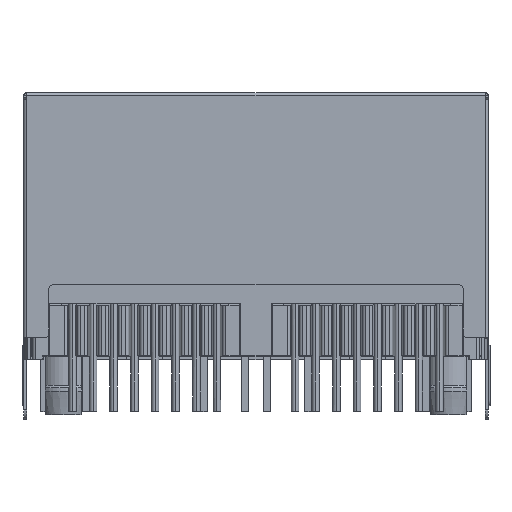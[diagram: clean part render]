
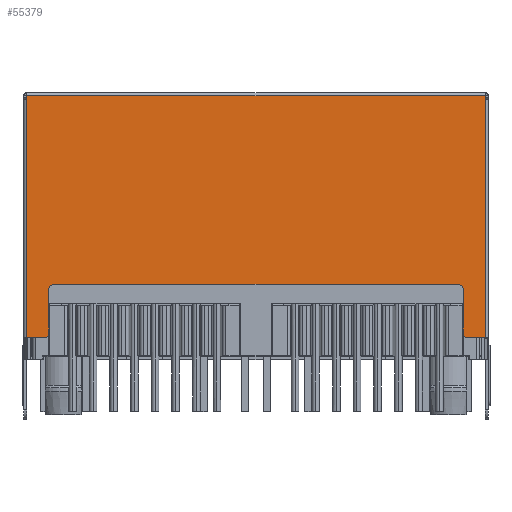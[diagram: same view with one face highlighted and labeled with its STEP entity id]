
A CAD part, top view. The second image highlights one B-rep face of the part: STEP entity #55379.
In plain terms, the highlighted planar face has unit normal (0, 0, -1).
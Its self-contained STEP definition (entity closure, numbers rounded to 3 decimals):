
#49929=DIRECTION('',(1.,0.,0.));
#49930=VECTOR('',#49929,1.05);
#49931=CARTESIAN_POINT('',(13.05,-6.9,7.88));
#49932=LINE('',#49931,#49930);
#49966=DIRECTION('',(0.,1.,0.));
#49967=VECTOR('',#49966,14.7);
#49968=CARTESIAN_POINT('',(14.1,-6.9,7.88));
#49969=LINE('',#49968,#49967);
#49974=CARTESIAN_POINT('',(13.05,-6.6,7.88));
#49975=DIRECTION('',(0.,0.,1.));
#49976=DIRECTION('',(-1.,0.,0.));
#49977=AXIS2_PLACEMENT_3D('',#49974,#49975,#49976);
#49979=DIRECTION('',(0.,1.,0.));
#49980=VECTOR('',#49979,0.2);
#49981=CARTESIAN_POINT('',(14.1,7.8,7.88));
#49982=LINE('',#49981,#49980);
#49983=DIRECTION('',(0.,-1.,0.));
#49984=VECTOR('',#49983,0.2);
#49985=CARTESIAN_POINT('',(-14.1,8.,7.88));
#49986=LINE('',#49985,#49984);
#49987=DIRECTION('',(1.,0.,0.));
#49988=VECTOR('',#49987,1.05);
#49989=CARTESIAN_POINT('',(-14.1,-6.9,7.88));
#49990=LINE('',#49989,#49988);
#49991=CARTESIAN_POINT('',(-13.05,-6.6,7.88));
#49992=DIRECTION('',(0.,0.,1.));
#49993=DIRECTION('',(0.,-1.,0.));
#49994=AXIS2_PLACEMENT_3D('',#49991,#49992,#49993);
#49996=DIRECTION('',(0.,1.,0.));
#49997=VECTOR('',#49996,2.7);
#49998=CARTESIAN_POINT('',(-12.75,-6.6,7.88));
#49999=LINE('',#49998,#49997);
#50000=CARTESIAN_POINT('',(-12.45,-3.9,7.88));
#50001=DIRECTION('',(0.,0.,-1.));
#50002=DIRECTION('',(-1.,0.,0.));
#50003=AXIS2_PLACEMENT_3D('',#50000,#50001,#50002);
#50005=DIRECTION('',(1.,0.,0.));
#50006=VECTOR('',#50005,24.9);
#50007=CARTESIAN_POINT('',(-12.45,-3.6,7.88));
#50008=LINE('',#50007,#50006);
#50009=CARTESIAN_POINT('',(12.45,-3.9,7.88));
#50010=DIRECTION('',(0.,0.,-1.));
#50011=DIRECTION('',(0.,1.,0.));
#50012=AXIS2_PLACEMENT_3D('',#50009,#50010,#50011);
#50014=DIRECTION('',(0.,-1.,0.));
#50015=VECTOR('',#50014,2.7);
#50016=CARTESIAN_POINT('',(12.75,-3.9,7.88));
#50017=LINE('',#50016,#50015);
#51976=DIRECTION('',(0.,-1.,0.));
#51977=VECTOR('',#51976,14.7);
#51978=CARTESIAN_POINT('',(-14.1,7.8,7.88));
#51979=LINE('',#51978,#51977);
#52077=DIRECTION('',(-1.,0.,0.));
#52078=VECTOR('',#52077,28.2);
#52079=CARTESIAN_POINT('',(14.1,8.,7.88));
#52080=LINE('',#52079,#52078);
#54133=CARTESIAN_POINT('',(12.75,-6.6,7.88));
#54134=VERTEX_POINT('',#54133);
#54135=CARTESIAN_POINT('',(13.05,-6.9,7.88));
#54136=VERTEX_POINT('',#54135);
#54137=CARTESIAN_POINT('',(12.75,-3.9,7.88));
#54138=VERTEX_POINT('',#54137);
#54139=CARTESIAN_POINT('',(12.45,-3.6,7.88));
#54140=VERTEX_POINT('',#54139);
#54141=CARTESIAN_POINT('',(-12.45,-3.6,7.88));
#54142=VERTEX_POINT('',#54141);
#54143=CARTESIAN_POINT('',(-12.75,-3.9,7.88));
#54144=VERTEX_POINT('',#54143);
#54145=CARTESIAN_POINT('',(-12.75,-6.6,7.88));
#54146=VERTEX_POINT('',#54145);
#54147=CARTESIAN_POINT('',(-13.05,-6.9,7.88));
#54148=VERTEX_POINT('',#54147);
#54149=CARTESIAN_POINT('',(-14.1,-6.9,7.88));
#54150=VERTEX_POINT('',#54149);
#54183=CARTESIAN_POINT('',(-14.1,7.8,7.88));
#54184=VERTEX_POINT('',#54183);
#54185=CARTESIAN_POINT('',(-14.1,8.,7.88));
#54186=VERTEX_POINT('',#54185);
#54389=CARTESIAN_POINT('',(14.1,8.,7.88));
#54390=VERTEX_POINT('',#54389);
#54391=CARTESIAN_POINT('',(14.1,7.8,7.88));
#54392=VERTEX_POINT('',#54391);
#54425=CARTESIAN_POINT('',(14.1,-6.9,7.88));
#54426=VERTEX_POINT('',#54425);
#55347=CARTESIAN_POINT('',(0.,0.55,7.88));
#55348=DIRECTION('',(0.,0.,1.));
#55349=DIRECTION('',(-1.,0.,0.));
#55350=AXIS2_PLACEMENT_3D('',#55347,#55348,#55349);
#55351=PLANE('',#55350);
#55352=ORIENTED_EDGE('',*,*,#55257,.T.);
#55353=ORIENTED_EDGE('',*,*,#55273,.T.);
#55354=ORIENTED_EDGE('',*,*,#55338,.T.);
#55356=ORIENTED_EDGE('',*,*,#55355,.T.);
#55358=ORIENTED_EDGE('',*,*,#55357,.T.);
#55360=ORIENTED_EDGE('',*,*,#55359,.T.);
#55362=ORIENTED_EDGE('',*,*,#55361,.T.);
#55364=ORIENTED_EDGE('',*,*,#55363,.T.);
#55366=ORIENTED_EDGE('',*,*,#55365,.T.);
#55368=ORIENTED_EDGE('',*,*,#55367,.T.);
#55370=ORIENTED_EDGE('',*,*,#55369,.T.);
#55372=ORIENTED_EDGE('',*,*,#55371,.T.);
#55374=ORIENTED_EDGE('',*,*,#55373,.T.);
#55376=ORIENTED_EDGE('',*,*,#55375,.T.);
#55377=EDGE_LOOP('',(#55352,#55353,#55354,#55356,#55358,#55360,#55362,#55364,
#55366,#55368,#55370,#55372,#55374,#55376));
#55378=FACE_OUTER_BOUND('',#55377,.F.);
#55379=ADVANCED_FACE('',(#55378),#55351,.F.);
#49978=CIRCLE('',#49977,0.3);
#49995=CIRCLE('',#49994,0.3);
#50004=CIRCLE('',#50003,0.3);
#50013=CIRCLE('',#50012,0.3);
#55257=EDGE_CURVE('',#54134,#54136,#49978,.T.);
#55273=EDGE_CURVE('',#54136,#54426,#49932,.T.);
#55338=EDGE_CURVE('',#54426,#54392,#49969,.T.);
#55355=EDGE_CURVE('',#54392,#54390,#49982,.T.);
#55357=EDGE_CURVE('',#54390,#54186,#52080,.T.);
#55359=EDGE_CURVE('',#54186,#54184,#49986,.T.);
#55361=EDGE_CURVE('',#54184,#54150,#51979,.T.);
#55363=EDGE_CURVE('',#54150,#54148,#49990,.T.);
#55365=EDGE_CURVE('',#54148,#54146,#49995,.T.);
#55367=EDGE_CURVE('',#54146,#54144,#49999,.T.);
#55369=EDGE_CURVE('',#54144,#54142,#50004,.T.);
#55371=EDGE_CURVE('',#54142,#54140,#50008,.T.);
#55373=EDGE_CURVE('',#54140,#54138,#50013,.T.);
#55375=EDGE_CURVE('',#54138,#54134,#50017,.T.);
